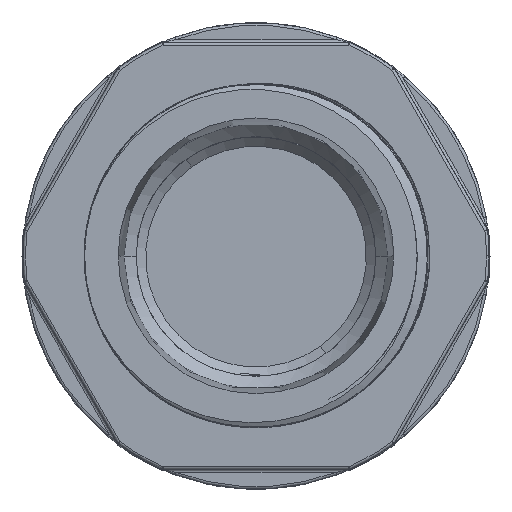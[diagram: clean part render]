
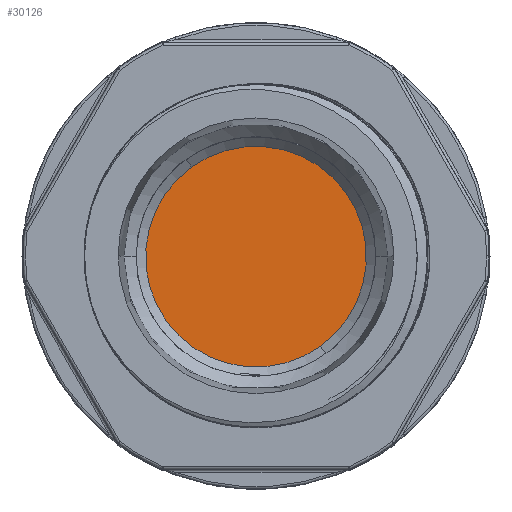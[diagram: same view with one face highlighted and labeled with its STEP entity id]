
A CAD part, top view. The second image highlights one B-rep face of the part: STEP entity #30126.
In plain terms, the highlighted planar face has unit normal (0, 0, 1) as drawn and (0, -1, 0) by its records, which use the part's own axes.
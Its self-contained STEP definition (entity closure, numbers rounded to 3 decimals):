
#1454 = DIRECTION ( 'NONE',  ( 0., -1., 0. ) ) ;
#2684 = ORIENTED_EDGE ( 'NONE', *, *, #48916, .T. ) ;
#10022 = FACE_OUTER_BOUND ( 'NONE', #10903, .T. ) ;
#10846 = AXIS2_PLACEMENT_3D ( 'NONE', #68044, #20526, #15288 ) ;
#10903 = EDGE_LOOP ( 'NONE', ( #28181, #2684 ) ) ;
#14971 = CARTESIAN_POINT ( 'NONE',  ( 0., 25.052, 11.606 ) ) ;
#15288 = DIRECTION ( 'NONE',  ( 0., 0., 1. ) ) ;
#20526 = DIRECTION ( 'NONE',  ( 0., 1., 0. ) ) ;
#20974 = AXIS2_PLACEMENT_3D ( 'NONE', #33290, #1454, #54577 ) ;
#22822 = AXIS2_PLACEMENT_3D ( 'NONE', #59154, #52881, #63345 ) ;
#27668 = CIRCLE ( 'NONE', #20974, 11.606 ) ;
#28181 = ORIENTED_EDGE ( 'NONE', *, *, #32518, .T. ) ;
#30126 = ADVANCED_FACE ( 'NONE', ( #10022 ), #42886, .F. ) ;
#32518 = EDGE_CURVE ( 'NONE', #56081, #47510, #27668, .T. ) ;
#33290 = CARTESIAN_POINT ( 'NONE',  ( 0., 25.052, 0. ) ) ;
#42886 = PLANE ( 'NONE',  #10846 ) ;
#47510 = VERTEX_POINT ( 'NONE', #14971 ) ;
#48916 = EDGE_CURVE ( 'NONE', #47510, #56081, #52936, .T. ) ;
#52881 = DIRECTION ( 'NONE',  ( 0., -1., 0. ) ) ;
#52936 = CIRCLE ( 'NONE', #22822, 11.606 ) ;
#54577 = DIRECTION ( 'NONE',  ( 0., 0., 1. ) ) ;
#56081 = VERTEX_POINT ( 'NONE', #66967 ) ;
#59154 = CARTESIAN_POINT ( 'NONE',  ( 0., 25.052, 0. ) ) ;
#63345 = DIRECTION ( 'NONE',  ( 0., 0., 1. ) ) ;
#66967 = CARTESIAN_POINT ( 'NONE',  ( 0., 25.052, -11.606 ) ) ;
#68044 = CARTESIAN_POINT ( 'NONE',  ( 0., 25.052, 0. ) ) ;
